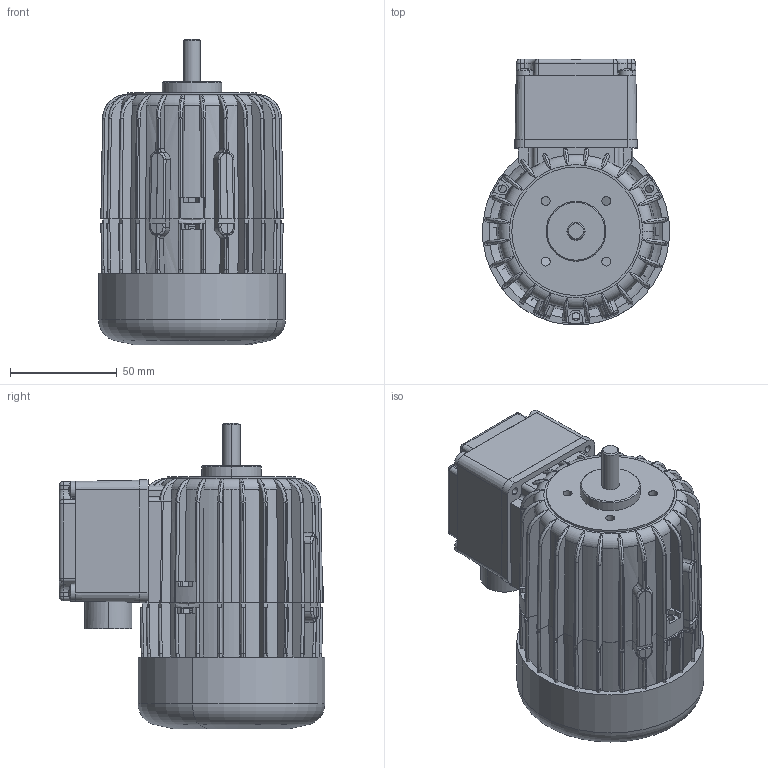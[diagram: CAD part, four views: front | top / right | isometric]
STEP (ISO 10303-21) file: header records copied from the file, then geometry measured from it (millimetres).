
FILE_DESCRIPTION (( 'STEP AP214' ), '1' );
FILE_NAME ('Dg7120-2.STEP', '2010-10-12T11:23:04', ( ' ' ), ( '' ), 'SwSTEP 2.0', 'SolidWorks 2010', '' );
FILE_SCHEMA (( 'AUTOMOTIVE_DESIGN' ));
Length unit declared in the file: millimetre
Products named in the file (1): Dg7120-2
Bounding box: 87.22 x 124.11 x 143 mm (x, y, z)
Surface area: 93151.9 mm2 (no closed solid volume)
Topology: 0 solids, 14 shells, 1049 faces, 3216 edges, 2150 vertices
Faces by surface type: cylinder 423, plane 330, torus 149, cone 89, bspline 50, sphere 8
Entity records: 52184 total; most frequent: CARTESIAN_POINT 13150, DIRECTION 5716, ORIENTED_EDGE 5548, EDGE_CURVE 3216, AXIS2_PLACEMENT_3D 2239, VERTEX_POINT 2150, CIRCLE 1239, LINE 1238
